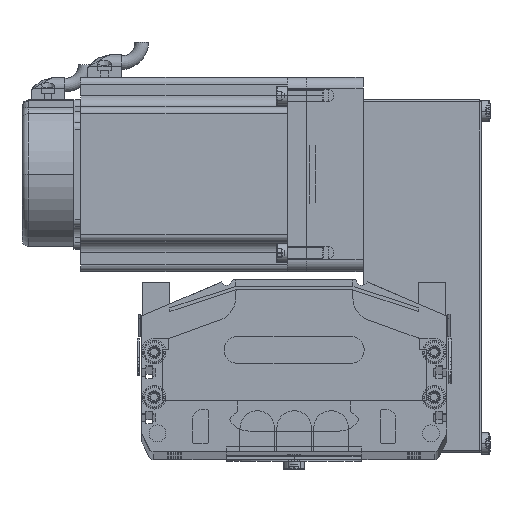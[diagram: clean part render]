
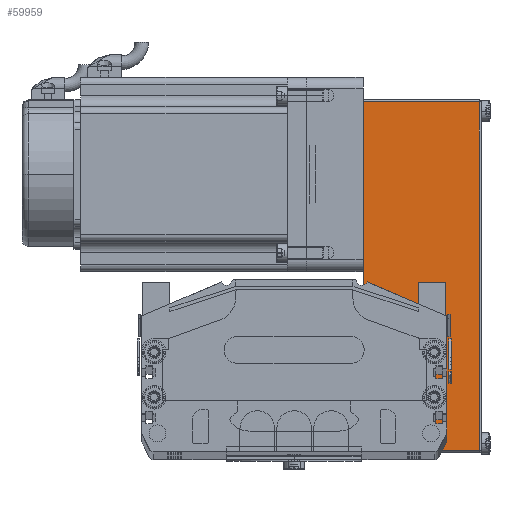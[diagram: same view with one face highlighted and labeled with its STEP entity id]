
A CAD part, top view. The second image highlights one B-rep face of the part: STEP entity #59959.
In plain terms, the highlighted planar face has unit normal (0, 0, 1) as drawn and (0, -1, 0) by its records, which use the part's own axes.
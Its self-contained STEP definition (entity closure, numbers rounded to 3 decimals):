
#19674 = CARTESIAN_POINT ( 'NONE',  ( 31., -40., 52.5 ) ) ;
#19727 = LINE ( 'NONE', #19738, #19961 ) ;
#19731 = DIRECTION ( 'NONE',  ( 1., 0., 0. ) ) ;
#19738 = CARTESIAN_POINT ( 'NONE',  ( 32., -40., 0. ) ) ;
#19756 = DIRECTION ( 'NONE',  ( 0., 0., 1. ) ) ;
#19779 = PLANE ( 'NONE',  #19948 ) ;
#19785 = VECTOR ( 'NONE', #19756, 1000. ) ;
#19925 = DIRECTION ( 'NONE',  ( -1., 0., 0. ) ) ;
#19926 = VECTOR ( 'NONE', #19925, 1000. ) ;
#19928 = CARTESIAN_POINT ( 'NONE',  ( 32., -40., 51.5 ) ) ;
#19929 = LINE ( 'NONE', #19928, #19926 ) ;
#19934 = CARTESIAN_POINT ( 'NONE',  ( 31., -40., 0. ) ) ;
#19936 = FACE_OUTER_BOUND ( 'NONE', #59989, .T. ) ;
#19948 = AXIS2_PLACEMENT_3D ( 'NONE', #19979, #19973, #19972 ) ;
#19961 = VECTOR ( 'NONE', #19731, 1000. ) ;
#19972 = DIRECTION ( 'NONE',  ( -1., 0., 0. ) ) ;
#19973 = DIRECTION ( 'NONE',  ( 0., 1., 0. ) ) ;
#19979 = CARTESIAN_POINT ( 'NONE',  ( 32., -40., 52.5 ) ) ;
#19989 = LINE ( 'NONE', #19674, #19785 ) ;
#20015 = CARTESIAN_POINT ( 'NONE',  ( -123.2, -40., 0. ) ) ;
#20146 = DIRECTION ( 'NONE',  ( 0., 0., -1. ) ) ;
#20170 = CARTESIAN_POINT ( 'NONE',  ( -123.2, -40., 52.5 ) ) ;
#20172 = LINE ( 'NONE', #20170, #20370 ) ;
#20270 = CARTESIAN_POINT ( 'NONE',  ( -123.2, -40., 51.5 ) ) ;
#20312 = CARTESIAN_POINT ( 'NONE',  ( 31., -40., 51.5 ) ) ;
#20370 = VECTOR ( 'NONE', #20146, 1000. ) ;
#59830 = ORIENTED_EDGE ( 'NONE', *, *, #59895, .T. ) ;
#59842 = ORIENTED_EDGE ( 'NONE', *, *, #59929, .T. ) ;
#59894 = VERTEX_POINT ( 'NONE', #19934 ) ;
#59895 = EDGE_CURVE ( 'NONE', #59896, #59894, #19727, .T. ) ;
#59896 = VERTEX_POINT ( 'NONE', #20015 ) ;
#59929 = EDGE_CURVE ( 'NONE', #59894, #60056, #19989, .T. ) ;
#59959 = ADVANCED_FACE ( 'NONE', ( #19936 ), #19779, .F. ) ;
#59989 = EDGE_LOOP ( 'NONE', ( #59830, #59842, #60062, #60051 ) ) ;
#60007 = EDGE_CURVE ( 'NONE', #60056, #60063, #19929, .T. ) ;
#60050 = EDGE_CURVE ( 'NONE', #60063, #59896, #20172, .T. ) ;
#60051 = ORIENTED_EDGE ( 'NONE', *, *, #60050, .T. ) ;
#60056 = VERTEX_POINT ( 'NONE', #20312 ) ;
#60062 = ORIENTED_EDGE ( 'NONE', *, *, #60007, .T. ) ;
#60063 = VERTEX_POINT ( 'NONE', #20270 ) ;
